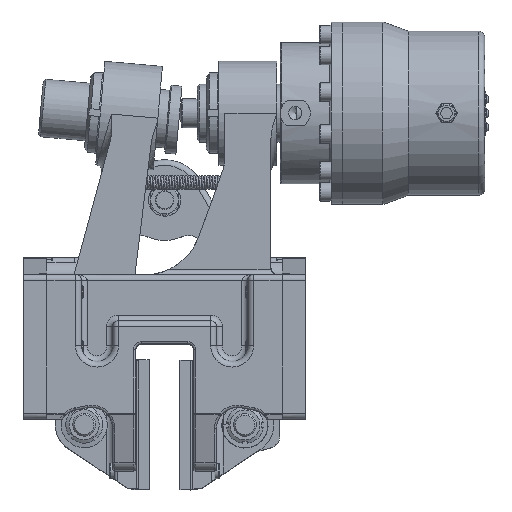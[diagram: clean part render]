
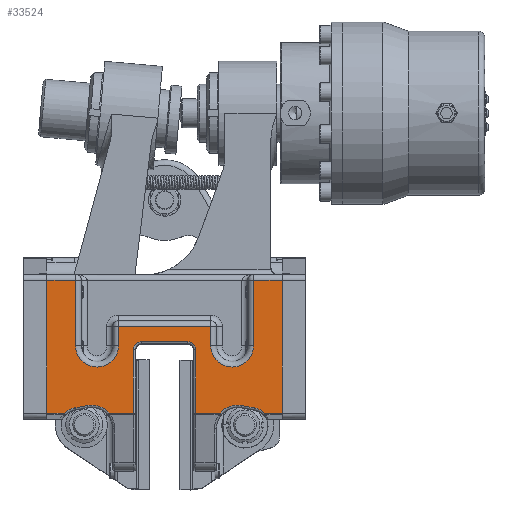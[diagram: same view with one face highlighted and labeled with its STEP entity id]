
A CAD part, top view. The second image highlights one B-rep face of the part: STEP entity #33524.
In plain terms, the highlighted planar face has unit normal (0, 0, 1).
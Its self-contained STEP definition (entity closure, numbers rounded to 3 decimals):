
#1677=PLANE('',#36341);
#3253=FACE_OUTER_BOUND('',#5158,.T.);
#5158=EDGE_LOOP('',(#25768,#25769,#25770,#25771,#25772,#25773,#25774,#25775,
#25776,#25777,#25778,#25779,#25780,#25781,#25782,#25783,#25784,#25785,#25786,
#25787,#25788,#25789,#25790,#25791,#25792,#25793));
#7316=LINE('',#61407,#9586);
#7318=LINE('',#61424,#9588);
#7321=LINE('',#61436,#9591);
#7323=LINE('',#61446,#9593);
#7325=LINE('',#61455,#9595);
#7326=LINE('',#61458,#9596);
#7328=LINE('',#61469,#9598);
#7355=LINE('',#61727,#9625);
#7356=LINE('',#61735,#9626);
#7357=LINE('',#61743,#9627);
#7363=LINE('',#61778,#9633);
#7364=LINE('',#61786,#9634);
#7368=LINE('',#61851,#9638);
#7380=LINE('',#61940,#9650);
#7381=LINE('',#61946,#9651);
#7382=LINE('',#61948,#9652);
#7383=LINE('',#61950,#9653);
#7384=LINE('',#61951,#9654);
#9586=VECTOR('',#42925,5.);
#9588=VECTOR('',#42945,10.);
#9591=VECTOR('',#42960,10.);
#9593=VECTOR('',#42972,10.);
#9595=VECTOR('',#42980,5.);
#9596=VECTOR('',#42983,10.);
#9598=VECTOR('',#42997,10.);
#9625=VECTOR('',#43130,10.);
#9626=VECTOR('',#43141,10.);
#9627=VECTOR('',#43152,10.);
#9633=VECTOR('',#43188,10.);
#9634=VECTOR('',#43191,10.);
#9638=VECTOR('',#43229,10.);
#9650=VECTOR('',#43265,10.);
#9651=VECTOR('',#43270,10.);
#9652=VECTOR('',#43273,10.);
#9653=VECTOR('',#43274,10.);
#9654=VECTOR('',#43275,10.);
#11603=CIRCLE('',#36214,18.5);
#11612=CIRCLE('',#36229,18.5);
#11643=CIRCLE('',#36288,7.);
#11646=CIRCLE('',#36293,7.);
#11663=CIRCLE('',#36326,20.);
#11666=CIRCLE('',#36331,18.);
#11670=CIRCLE('',#36342,18.);
#11671=CIRCLE('',#36343,20.);
#14338=VERTEX_POINT('',#61404);
#14339=VERTEX_POINT('',#61406);
#14341=VERTEX_POINT('',#61412);
#14345=VERTEX_POINT('',#61423);
#14347=VERTEX_POINT('',#61429);
#14349=VERTEX_POINT('',#61438);
#14352=VERTEX_POINT('',#61448);
#14355=VERTEX_POINT('',#61453);
#14356=VERTEX_POINT('',#61457);
#14358=VERTEX_POINT('',#61463);
#14382=VERTEX_POINT('',#61722);
#14383=VERTEX_POINT('',#61726);
#14384=VERTEX_POINT('',#61730);
#14385=VERTEX_POINT('',#61734);
#14386=VERTEX_POINT('',#61738);
#14387=VERTEX_POINT('',#61742);
#14396=VERTEX_POINT('',#61771);
#14397=VERTEX_POINT('',#61776);
#14398=VERTEX_POINT('',#61780);
#14402=VERTEX_POINT('',#61845);
#14403=VERTEX_POINT('',#61849);
#14412=VERTEX_POINT('',#61935);
#14413=VERTEX_POINT('',#61942);
#14414=VERTEX_POINT('',#61943);
#14415=VERTEX_POINT('',#61945);
#14416=VERTEX_POINT('',#61949);
#18379=EDGE_CURVE('',#14338,#14339,#7316,.T.);
#18387=EDGE_CURVE('',#14339,#14345,#7318,.T.);
#18390=EDGE_CURVE('',#14345,#14347,#11603,.T.);
#18394=EDGE_CURVE('',#14347,#14341,#7321,.T.);
#18399=EDGE_CURVE('',#14341,#14349,#7323,.T.);
#18403=EDGE_CURVE('',#14355,#14352,#7325,.T.);
#18404=EDGE_CURVE('',#14349,#14356,#7326,.T.);
#18407=EDGE_CURVE('',#14356,#14358,#11612,.T.);
#18410=EDGE_CURVE('',#14358,#14355,#7328,.T.);
#18466=EDGE_CURVE('',#14382,#14383,#7355,.T.);
#18468=EDGE_CURVE('',#14383,#14384,#11643,.T.);
#18470=EDGE_CURVE('',#14384,#14385,#7356,.T.);
#18472=EDGE_CURVE('',#14385,#14386,#11646,.T.);
#18474=EDGE_CURVE('',#14386,#14387,#7357,.T.);
#18490=EDGE_CURVE('',#14397,#14396,#7363,.T.);
#18492=EDGE_CURVE('',#14398,#14382,#7364,.T.);
#18504=EDGE_CURVE('',#14402,#14398,#11663,.T.);
#18506=EDGE_CURVE('',#14403,#14402,#7368,.T.);
#18508=EDGE_CURVE('',#14396,#14403,#11666,.T.);
#18526=EDGE_CURVE('',#14387,#14412,#7380,.T.);
#18527=EDGE_CURVE('',#14413,#14414,#11670,.T.);
#18528=EDGE_CURVE('',#14415,#14413,#7381,.T.);
#18529=EDGE_CURVE('',#14412,#14415,#11671,.T.);
#18530=EDGE_CURVE('',#14397,#14352,#7382,.T.);
#18531=EDGE_CURVE('',#14338,#14416,#7383,.T.);
#18532=EDGE_CURVE('',#14414,#14416,#7384,.T.);
#25768=ORIENTED_EDGE('',*,*,#18527,.F.);
#25769=ORIENTED_EDGE('',*,*,#18528,.F.);
#25770=ORIENTED_EDGE('',*,*,#18529,.F.);
#25771=ORIENTED_EDGE('',*,*,#18526,.F.);
#25772=ORIENTED_EDGE('',*,*,#18474,.F.);
#25773=ORIENTED_EDGE('',*,*,#18472,.F.);
#25774=ORIENTED_EDGE('',*,*,#18470,.F.);
#25775=ORIENTED_EDGE('',*,*,#18468,.F.);
#25776=ORIENTED_EDGE('',*,*,#18466,.F.);
#25777=ORIENTED_EDGE('',*,*,#18492,.F.);
#25778=ORIENTED_EDGE('',*,*,#18504,.F.);
#25779=ORIENTED_EDGE('',*,*,#18506,.F.);
#25780=ORIENTED_EDGE('',*,*,#18508,.F.);
#25781=ORIENTED_EDGE('',*,*,#18490,.F.);
#25782=ORIENTED_EDGE('',*,*,#18530,.T.);
#25783=ORIENTED_EDGE('',*,*,#18403,.F.);
#25784=ORIENTED_EDGE('',*,*,#18410,.F.);
#25785=ORIENTED_EDGE('',*,*,#18407,.F.);
#25786=ORIENTED_EDGE('',*,*,#18404,.F.);
#25787=ORIENTED_EDGE('',*,*,#18399,.F.);
#25788=ORIENTED_EDGE('',*,*,#18394,.F.);
#25789=ORIENTED_EDGE('',*,*,#18390,.F.);
#25790=ORIENTED_EDGE('',*,*,#18387,.F.);
#25791=ORIENTED_EDGE('',*,*,#18379,.F.);
#25792=ORIENTED_EDGE('',*,*,#18531,.T.);
#25793=ORIENTED_EDGE('',*,*,#18532,.F.);
#33524=ADVANCED_FACE('',(#3253),#1677,.T.);
#36214=AXIS2_PLACEMENT_3D('',#61430,#42951,#42952);
#36229=AXIS2_PLACEMENT_3D('',#61464,#42989,#42990);
#36288=AXIS2_PLACEMENT_3D('',#61731,#43135,#43136);
#36293=AXIS2_PLACEMENT_3D('',#61739,#43146,#43147);
#36326=AXIS2_PLACEMENT_3D('',#61847,#43223,#43224);
#36331=AXIS2_PLACEMENT_3D('',#61854,#43234,#43235);
#36341=AXIS2_PLACEMENT_3D('',#61941,#43266,#43267);
#36342=AXIS2_PLACEMENT_3D('',#61944,#43268,#43269);
#36343=AXIS2_PLACEMENT_3D('',#61947,#43271,#43272);
#42925=DIRECTION('',(1.,0.,0.));
#42945=DIRECTION('',(0.,-1.,0.));
#42951=DIRECTION('center_axis',(0.,0.,
1.));
#42952=DIRECTION('ref_axis',(0.,-1.,0.));
#42960=DIRECTION('',(0.,1.,0.));
#42972=DIRECTION('',(1.,0.,0.));
#42980=DIRECTION('',(1.,0.,0.));
#42983=DIRECTION('',(0.,-1.,0.));
#42989=DIRECTION('center_axis',(0.,0.,
1.));
#42990=DIRECTION('ref_axis',(0.,-1.,0.));
#42997=DIRECTION('',(0.,1.,0.));
#43130=DIRECTION('',(0.,1.,0.));
#43135=DIRECTION('center_axis',(0.,0.,
1.));
#43136=DIRECTION('ref_axis',(0.707,0.707,0.));
#43141=DIRECTION('',(-1.,0.,0.));
#43146=DIRECTION('center_axis',(0.,0.,
1.));
#43147=DIRECTION('ref_axis',(-0.707,0.707,0.));
#43152=DIRECTION('',(0.,-1.,0.));
#43188=DIRECTION('',(-1.,0.,0.));
#43191=DIRECTION('',(-1.,0.,0.));
#43223=DIRECTION('center_axis',(0.,0.,
1.));
#43224=DIRECTION('ref_axis',(-0.29,0.957,0.));
#43229=DIRECTION('',(-0.985,0.174,0.));
#43234=DIRECTION('center_axis',(0.,0.,
1.));
#43235=DIRECTION('ref_axis',(0.388,0.922,0.));
#43265=DIRECTION('',(-1.,0.,0.));
#43266=DIRECTION('center_axis',(0.,0.,
1.));
#43267=DIRECTION('ref_axis',(1.,0.,0.));
#43268=DIRECTION('center_axis',(0.,0.,
1.));
#43269=DIRECTION('ref_axis',(-0.388,0.922,0.));
#43270=DIRECTION('',(-0.985,-0.174,0.));
#43271=DIRECTION('center_axis',(0.,0.,
1.));
#43272=DIRECTION('ref_axis',(0.29,0.957,0.));
#43273=DIRECTION('',(0.,1.,0.));
#43274=DIRECTION('',(0.,-1.,0.));
#43275=DIRECTION('',(-1.,0.,0.));
#61404=CARTESIAN_POINT('',(-102.,165.,285.));
#61406=CARTESIAN_POINT('',(-77.,165.,285.));
#61407=CARTESIAN_POINT('',(102.,165.,285.));
#61412=CARTESIAN_POINT('',(-40.,125.,285.));
#61423=CARTESIAN_POINT('',(-77.,108.5,285.));
#61424=CARTESIAN_POINT('',(-77.,99.315,285.));
#61429=CARTESIAN_POINT('',(-40.,108.5,285.));
#61430=CARTESIAN_POINT('Origin',(-58.5,108.5,285.));
#61436=CARTESIAN_POINT('',(-40.,107.565,285.));
#61438=CARTESIAN_POINT('',(40.,125.,285.));
#61446=CARTESIAN_POINT('',(20.,125.,285.));
#61448=CARTESIAN_POINT('',(102.,165.,285.));
#61453=CARTESIAN_POINT('',(77.,165.,285.));
#61455=CARTESIAN_POINT('',(0.,165.,285.));
#61457=CARTESIAN_POINT('',(40.,108.5,285.));
#61458=CARTESIAN_POINT('',(40.,99.315,285.));
#61463=CARTESIAN_POINT('',(77.,108.5,285.));
#61464=CARTESIAN_POINT('Origin',(58.5,108.5,285.));
#61469=CARTESIAN_POINT('',(77.,127.565,285.));
#61722=CARTESIAN_POINT('',(27.,50.,285.));
#61726=CARTESIAN_POINT('',(27.,105.,285.));
#61727=CARTESIAN_POINT('',(27.,97.565,285.));
#61730=CARTESIAN_POINT('',(20.,112.,285.));
#61731=CARTESIAN_POINT('Origin',(20.,105.,285.));
#61734=CARTESIAN_POINT('',(-20.,112.,285.));
#61735=CARTESIAN_POINT('',(-10.,112.,285.));
#61738=CARTESIAN_POINT('',(-27.,105.,285.));
#61739=CARTESIAN_POINT('Origin',(-20.,105.,285.));
#61742=CARTESIAN_POINT('',(-27.,50.,285.));
#61743=CARTESIAN_POINT('',(-27.,45.065,285.));
#61771=CARTESIAN_POINT('',(86.95,50.,285.));
#61776=CARTESIAN_POINT('',(102.,50.,285.));
#61778=CARTESIAN_POINT('',(-102.,50.,285.));
#61780=CARTESIAN_POINT('',(47.801,50.,285.));
#61786=CARTESIAN_POINT('',(-102.,50.,285.));
#61845=CARTESIAN_POINT('',(66.478,56.695,285.));
#61847=CARTESIAN_POINT('Origin',(63.,37.,285.));
#61849=CARTESIAN_POINT('',(77.63,54.726,285.));
#61851=CARTESIAN_POINT('',(31.381,62.893,285.));
#61854=CARTESIAN_POINT('Origin',(74.5,37.,285.));
#61935=CARTESIAN_POINT('',(-47.801,50.,285.));
#61940=CARTESIAN_POINT('',(-102.,50.,285.));
#61941=CARTESIAN_POINT('Origin',(0.,90.129,
285.));
#61942=CARTESIAN_POINT('',(-77.63,54.726,285.));
#61943=CARTESIAN_POINT('',(-86.95,50.,285.));
#61944=CARTESIAN_POINT('Origin',(-74.5,37.,285.));
#61945=CARTESIAN_POINT('',(-66.478,56.695,285.));
#61946=CARTESIAN_POINT('',(-36.958,61.909,285.));
#61947=CARTESIAN_POINT('Origin',(-63.,37.,285.));
#61948=CARTESIAN_POINT('',(102.,170.,285.));
#61949=CARTESIAN_POINT('',(-102.,50.,285.));
#61950=CARTESIAN_POINT('',(-102.,45.,285.));
#61951=CARTESIAN_POINT('',(-102.,50.,285.));
